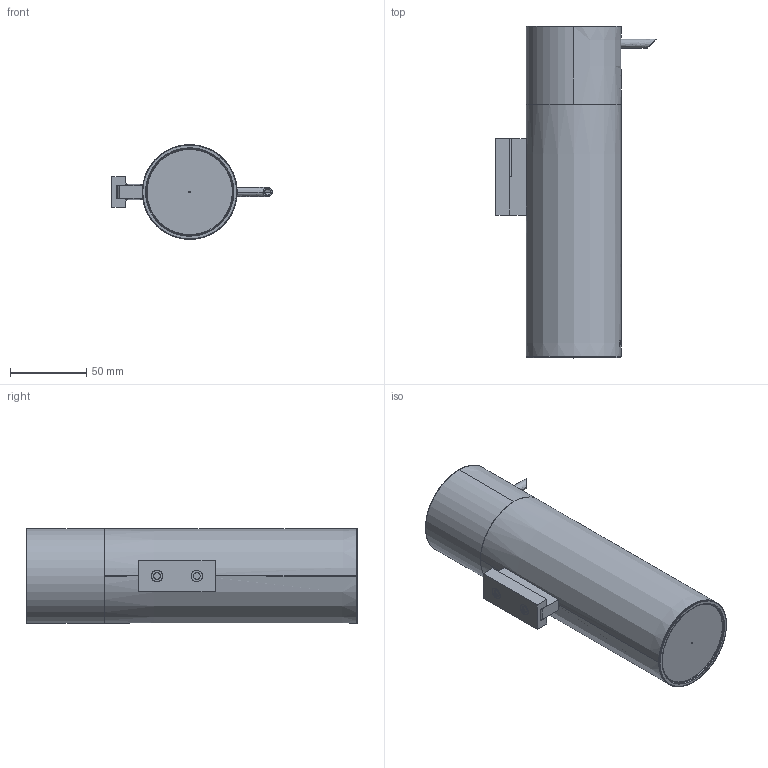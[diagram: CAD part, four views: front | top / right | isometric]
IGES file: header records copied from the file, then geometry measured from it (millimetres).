
Start section: SolidWorks IGES file using analytic representation for surfaces
Global section: file name: G:\Projects\New project\For Marketing\IGS\IGS\2015-12-11\477802002VW.IGS; native system: SolidWorks 2010; preprocessor: SolidWorks 2010; author: weijuan; date: 151207.153439; units: inch
Bounding box: 105 x 217.2 x 62 mm (x, y, z)
Surface area: 72124.5 mm2 (no closed solid volume)
Topology: 0 solids, 0 shells, 130 faces, 1619 edges, 1617 vertices
Faces by surface type: bspline 72, revolution 58
